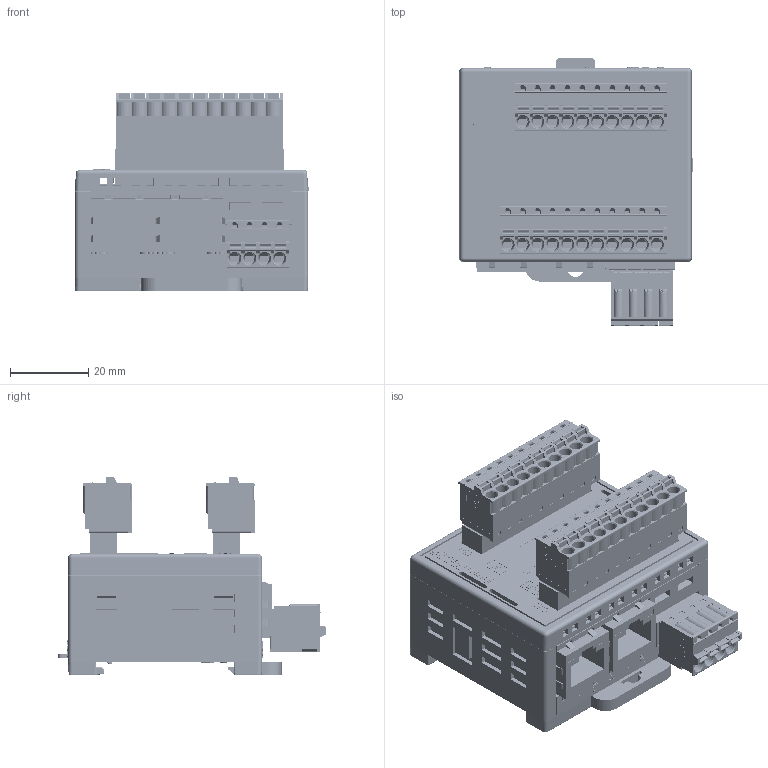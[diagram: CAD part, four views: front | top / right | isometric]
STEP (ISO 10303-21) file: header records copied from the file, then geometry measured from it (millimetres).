
FILE_DESCRIPTION((''),'2;1');
FILE_NAME('EICBP88W','2026-05-11T14:44:03',('gijyu181'),(''),'CREO PARAMETRIC BY PTC INC, 2018050','CREO PARAMETRIC BY PTC INC, 2018050','');
FILE_SCHEMA(('CONFIG_CONTROL_DESIGN','SHAPE_APPEARANCE_LAYERS_GROUPS'));
Products named in the file (1): EICBP88W
Bounding box: 59.75 x 68.55 x 50.7 mm (x, y, z)
Volume: 71056 mm3; surface area: 53378 mm2
Topology: 1 solids, 53 shells, 9817 faces, 27487 edges, 18072 vertices
Faces by surface type: plane 7135, cylinder 1602, extrusion 612, cone 274, sphere 94, torus 76, bspline 24
Entity records: 427336 total; most frequent: CARTESIAN_POINT 78717, ORIENTED_EDGE 53664, DIRECTION 46996, EDGE_CURVE 27473, VECTOR 22232, PRESENTATION_STYLE_ASSIGNMENT 21778, LINE 21620, STYLED_ITEM 18552
